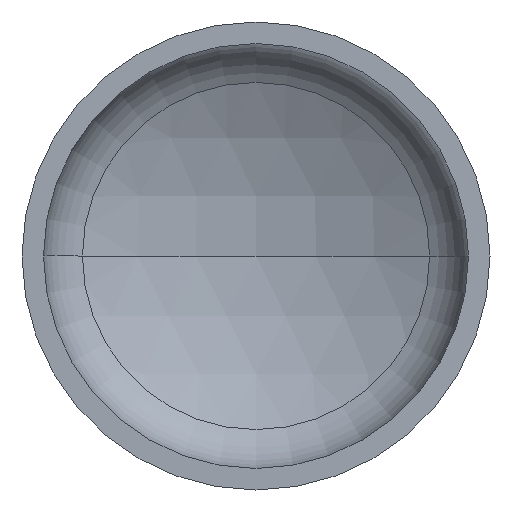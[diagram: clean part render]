
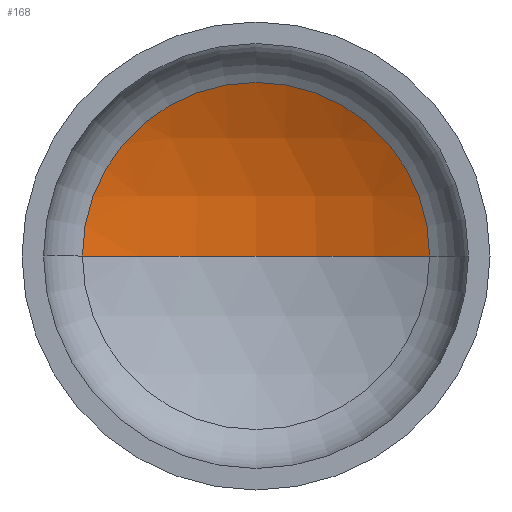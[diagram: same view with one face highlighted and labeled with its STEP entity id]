
A CAD part, front view. The second image highlights one B-rep face of the part: STEP entity #168.
In plain terms, the highlighted spherical face has radius 1600 mm.
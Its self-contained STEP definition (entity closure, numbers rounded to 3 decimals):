
#9 = AXIS2_PLACEMENT_3D ( 'NONE', #409, #277, #75 ) ;
#10 = AXIS2_PLACEMENT_3D ( 'NONE', #166, #336, #199 ) ;
#17 = AXIS2_PLACEMENT_3D ( 'NONE', #246, #401, #268 ) ;
#19 = CARTESIAN_POINT ( 'NONE',  ( 741.705, 374.679, 0. ) ) ;
#28 = ORIENTED_EDGE ( 'NONE', *, *, #328, .T. ) ;
#40 = VERTEX_POINT ( 'NONE', #19 ) ;
#51 = AXIS2_PLACEMENT_3D ( 'NONE', #190, #92, #326 ) ;
#68 = VERTEX_POINT ( 'NONE', #217 ) ;
#75 = DIRECTION ( 'NONE',  ( -1., 0., 0. ) ) ;
#92 = DIRECTION ( 'NONE',  ( 0., 0., -1. ) ) ;
#100 = EDGE_LOOP ( 'NONE', ( #116, #108, #28 ) ) ;
#108 = ORIENTED_EDGE ( 'NONE', *, *, #367, .T. ) ;
#116 = ORIENTED_EDGE ( 'NONE', *, *, #353, .F. ) ;
#150 = VERTEX_POINT ( 'NONE', #260 ) ;
#166 = CARTESIAN_POINT ( 'NONE',  ( 0., -1043.021, 0. ) ) ;
#168 = ADVANCED_FACE ( 'NONE', ( #349 ), #235, .F. ) ;
#183 = CIRCLE ( 'NONE', #9, 1600. ) ;
#190 = CARTESIAN_POINT ( 'NONE',  ( 0., -1043.021, 0. ) ) ;
#199 = DIRECTION ( 'NONE',  ( 1., 0., 0. ) ) ;
#217 = CARTESIAN_POINT ( 'NONE',  ( -741.705, 374.679, 0. ) ) ;
#235 = SPHERICAL_SURFACE ( 'NONE', #51, 1600. ) ;
#246 = CARTESIAN_POINT ( 'NONE',  ( 0., 374.679, 0. ) ) ;
#260 = CARTESIAN_POINT ( 'NONE',  ( 0., 556.979, 0. ) ) ;
#268 = DIRECTION ( 'NONE',  ( 1., 0., 0. ) ) ;
#277 = DIRECTION ( 'NONE',  ( 0., 0., -1. ) ) ;
#303 = CIRCLE ( 'NONE', #10, 1600. ) ;
#316 = CIRCLE ( 'NONE', #17, 741.705 ) ;
#326 = DIRECTION ( 'NONE',  ( -1., 0., 0. ) ) ;
#328 = EDGE_CURVE ( 'NONE', #40, #68, #316, .T. ) ;
#336 = DIRECTION ( 'NONE',  ( 0., 0., 1. ) ) ;
#349 = FACE_OUTER_BOUND ( 'NONE', #100, .T. ) ;
#353 = EDGE_CURVE ( 'NONE', #150, #68, #303, .T. ) ;
#367 = EDGE_CURVE ( 'NONE', #150, #40, #183, .T. ) ;
#401 = DIRECTION ( 'NONE',  ( 0., -1., 0. ) ) ;
#409 = CARTESIAN_POINT ( 'NONE',  ( 0., -1043.021, 0. ) ) ;
